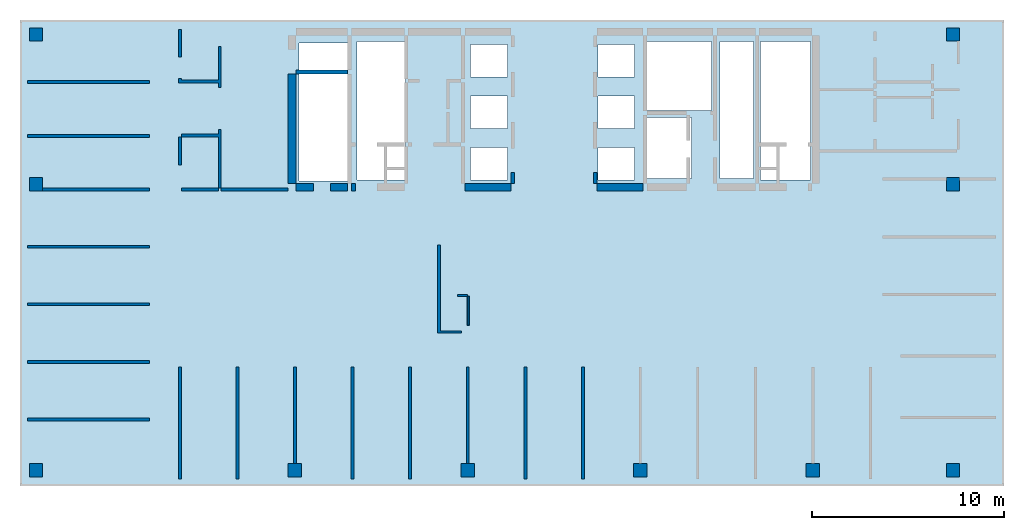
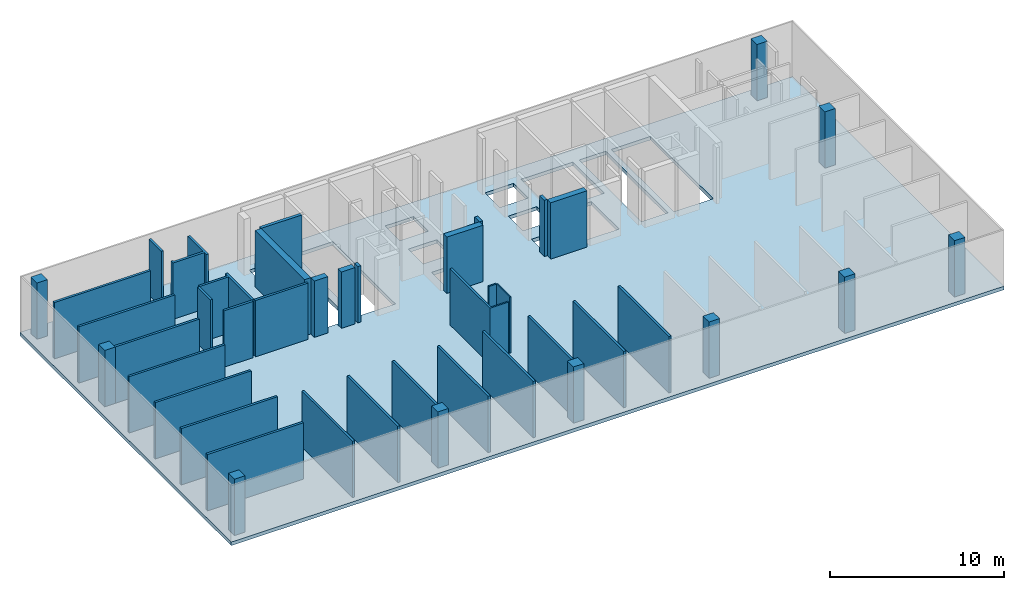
# One storey, part 1 of 4: 33 walls, 10 columns, 1 slab.
"""IFC4 building model written with IfcOpenShell, lengths in millimetres."""

from ifc_helpers import new_model, si_unit, frame, origin, place, context, project, spatial, triangles, element, save


model = new_model("IFC4")

# Units and contexts
model_context = context("Model", 3, precision=0.001, world=origin())
ifc_project = project(units=[si_unit("LENGTHUNIT", "METRE", prefix="MILLI"), si_unit("AREAUNIT", "SQUARE_METRE"), si_unit("VOLUMEUNIT", "CUBIC_METRE")], contexts=[model_context])

# Site, building, storey
site_placement = place(None, origin())
site = spatial("IfcSite", under=ifc_project, at=site_placement, Name="Site", CompositionType="ELEMENT")
building_placement = place(site_placement, origin())
building = spatial("IfcBuilding", under=site, at=building_placement, Name="INNOCEAN", CompositionType="ELEMENT")
storey_placement = place(building_placement, frame((0.0, 0.0, 72200.0)))
storey = spatial("IfcBuildingStorey", under=building, at=storey_placement, Name="F17", CompositionType="ELEMENT", Elevation=72200.0)

# Columns
column_1_placement = place(storey_placement, origin())
element("IfcColumn", 1, at=column_1_placement, inside=storey, Name="F17_Columns_F17_001", context=model_context, shape_type="Tessellation", body=[
    triangles([(40114.8, 2023.7, 0.0), (40114.8, 2023.7, 3950.0), (40114.8, 2722.3, 0.0), (40114.8, 2722.3, 3950.0), (40813.0, 2023.7, 3950.0), (40813.0, 2023.7, 0.0), (40813.0, 2722.3, 0.0), (40813.0, 2722.3, 3950.0)], [[1, 2, 3], [3, 2, 4], [5, 6, 7], [5, 7, 8], [6, 5, 1], [1, 5, 2], [8, 7, 3], [8, 3, 4], [3, 7, 1], [1, 7, 6], [8, 4, 2], [8, 2, 5]], closed=True),
])
column_2_placement = place(storey_placement, origin())
element("IfcColumn", 2, at=column_2_placement, inside=storey, Name="F17_Columns_F17_002", context=model_context, shape_type="Tessellation", body=[
    triangles([(47413.4, 24721.0, 0.0), (47413.4, 24721.0, 3950.0), (47413.4, 25419.5, 0.0), (47413.4, 25419.5, 3950.0), (48111.6, 24721.0, 3950.0), (48111.6, 24721.0, 0.0), (48111.6, 25419.5, 0.0), (48111.6, 25419.5, 3950.0)], [[1, 2, 3], [3, 2, 4], [5, 6, 7], [5, 7, 8], [6, 5, 1], [1, 5, 2], [8, 7, 3], [8, 3, 4], [1, 3, 6], [3, 7, 6], [4, 2, 5], [8, 4, 5]], closed=True),
])
column_3_placement = place(storey_placement, origin())
element("IfcColumn", 3, at=column_3_placement, inside=storey, Name="F17_Columns_F17_003", context=model_context, shape_type="Tessellation", body=[
    triangles([(47413.4, 16922.4, 0.0), (47413.4, 16922.4, 3950.0), (47413.4, 17620.9, 0.0), (47413.4, 17620.9, 3950.0), (48111.6, 16922.4, 3950.0), (48111.6, 16922.4, 0.0), (48111.6, 17620.9, 0.0), (48111.6, 17620.9, 3950.0)], [[1, 2, 3], [3, 2, 4], [5, 6, 7], [5, 7, 8], [6, 5, 1], [1, 5, 2], [8, 7, 3], [8, 3, 4], [1, 3, 6], [3, 7, 6], [4, 2, 5], [8, 4, 5]], closed=True),
])
column_4_placement = place(storey_placement, origin())
element("IfcColumn", 4, at=column_4_placement, inside=storey, Name="F17_Columns_F17_004", context=model_context, shape_type="Tessellation", body=[
    triangles([(13129.0, 2023.7, 0.0), (13129.0, 2023.7, 3950.0), (13129.0, 2722.3, 0.0), (13129.0, 2722.3, 3950.0), (13827.2, 2023.7, 3950.0), (13827.2, 2023.7, 0.0), (13827.2, 2722.3, 0.0), (13827.2, 2722.3, 3950.0)], [[1, 2, 3], [3, 2, 4], [5, 6, 7], [5, 7, 8], [6, 5, 1], [1, 5, 2], [8, 7, 3], [8, 3, 4], [3, 7, 1], [1, 7, 6], [8, 4, 2], [8, 2, 5]], closed=True),
])
column_5_placement = place(storey_placement, origin())
element("IfcColumn", 5, at=column_5_placement, inside=storey, Name="F17_Columns_F17_005", context=model_context, shape_type="Tessellation", body=[
    triangles([(47413.4, 2023.7, 0.0), (47413.4, 2023.7, 3950.0), (47413.4, 2722.3, 0.0), (47413.4, 2722.3, 3950.0), (48111.6, 2023.7, 3950.0), (48111.6, 2023.7, 0.0), (48111.6, 2722.3, 0.0), (48111.6, 2722.3, 3950.0)], [[1, 2, 3], [3, 2, 4], [5, 6, 7], [5, 7, 8], [6, 5, 1], [1, 5, 2], [8, 7, 3], [8, 3, 4], [3, 7, 1], [1, 7, 6], [8, 4, 2], [8, 2, 5]], closed=True),
])
column_6_placement = place(storey_placement, origin())
element("IfcColumn", 6, at=column_6_placement, inside=storey, Name="F17_Columns_F17_006", context=model_context, shape_type="Tessellation", body=[
    triangles([(-363.9, 2023.7, 0.0), (-363.9, 2023.7, 3950.0), (-363.9, 2722.3, 0.0), (-363.9, 2722.3, 3950.0), (334.3, 2023.7, 3950.0), (334.3, 2023.7, 0.0), (334.3, 2722.3, 0.0), (334.3, 2722.3, 3950.0)], [[1, 2, 3], [3, 2, 4], [5, 6, 7], [5, 7, 8], [6, 5, 1], [1, 5, 2], [8, 7, 3], [8, 3, 4], [3, 7, 1], [1, 7, 6], [8, 4, 2], [8, 2, 5]], closed=True),
])
column_7_placement = place(storey_placement, origin())
element("IfcColumn", 7, at=column_7_placement, inside=storey, Name="F17_Columns_F17_007", context=model_context, shape_type="Tessellation", body=[
    triangles([(-363.9, 24721.0, 0.0), (-363.9, 24721.0, 3950.0), (-363.9, 25419.5, 0.0), (-363.9, 25419.5, 3950.0), (334.3, 24721.0, 3950.0), (334.3, 24721.0, 0.0), (334.3, 25419.5, 0.0), (334.3, 25419.5, 3950.0)], [[1, 2, 3], [3, 2, 4], [5, 6, 7], [5, 7, 8], [6, 5, 1], [1, 5, 2], [8, 7, 3], [8, 3, 4], [3, 7, 1], [1, 7, 6], [8, 4, 2], [8, 2, 5]], closed=True),
])
column_8_placement = place(storey_placement, origin())
element("IfcColumn", 8, at=column_8_placement, inside=storey, Name="F17_Columns_F17_008", context=model_context, shape_type="Tessellation", body=[
    triangles([(31128.0, 2023.7, 0.0), (31128.0, 2023.7, 3950.0), (31128.0, 2722.3, 0.0), (31128.0, 2722.3, 3950.0), (31826.2, 2023.7, 3950.0), (31826.2, 2023.7, 0.0), (31826.2, 2722.3, 0.0), (31826.2, 2722.3, 3950.0)], [[1, 2, 3], [3, 2, 4], [5, 6, 7], [5, 7, 8], [6, 5, 1], [1, 5, 2], [8, 7, 3], [8, 3, 4], [3, 7, 1], [1, 7, 6], [8, 4, 2], [8, 2, 5]], closed=True),
])
column_9_placement = place(storey_placement, origin())
element("IfcColumn", 9, at=column_9_placement, inside=storey, Name="F17_Columns_F17_009", context=model_context, shape_type="Tessellation", body=[
    triangles([(22128.5, 2023.7, 0.0), (22128.5, 2023.7, 3950.0), (22128.5, 2722.3, 0.0), (22128.5, 2722.3, 3950.0), (22826.7, 2023.7, 3950.0), (22826.7, 2023.7, 0.0), (22826.7, 2722.3, 0.0), (22826.7, 2722.3, 3950.0)], [[1, 2, 3], [3, 2, 4], [5, 6, 7], [5, 7, 8], [6, 5, 1], [1, 5, 2], [8, 7, 3], [8, 3, 4], [3, 7, 1], [1, 7, 6], [8, 4, 2], [8, 2, 5]], closed=True),
])
column_10_placement = place(storey_placement, origin())
element("IfcColumn", 10, at=column_10_placement, inside=storey, Name="F17_Columns_F17_010", context=model_context, shape_type="Tessellation", body=[
    triangles([(-363.9, 16922.4, 0.0), (-363.9, 16922.4, 3950.0), (-363.9, 17620.9, 0.0), (-363.9, 17620.9, 3950.0), (334.3, 16922.4, 3950.0), (334.3, 16922.4, 0.0), (334.3, 17620.9, 0.0), (334.3, 17620.9, 3950.0)], [[1, 2, 3], [3, 2, 4], [5, 6, 7], [5, 7, 8], [6, 5, 1], [1, 5, 2], [8, 7, 3], [8, 3, 4], [3, 7, 1], [1, 7, 6], [8, 4, 2], [8, 2, 5]], closed=True),
])

# Slab
slab_placement = place(storey_placement, origin())
element("IfcSlab", 11, at=slab_placement, inside=storey, Name="F17_Slab_F17_001", context=model_context, shape_type="Tessellation", body=[
    triangles([(-846.215139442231, 25825.974025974, 0.0), (50420.3187250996, 25825.974025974, -250.0), (-846.215139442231, 25825.974025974, -250.0), (50420.3187250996, 25825.974025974, 0.0), (-846.215139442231, 1552.38095238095, 0.0), (-846.215139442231, 1552.38095238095, -250.0), (50420.3187250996, 1552.38095238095, 0.0), (50420.3187250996, 1552.38095238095, -250.0), (34130.6772908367, 20745.4545454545, -250.0), (31733.0677290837, 20745.4545454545, 0.0), (31733.0677290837, 20745.4545454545, -250.0), (34130.6772908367, 20745.4545454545, 0.0), (31733.0677290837, 17570.1298701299, 0.0), (31733.0677290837, 17570.1298701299, -250.0), (34130.6772908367, 17570.1298701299, 0.0), (34130.6772908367, 17570.1298701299, -250.0), (31168.9243027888, 19193.0735930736, 0.0), (29264.9402390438, 19193.0735930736, 0.0), (29264.9402390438, 19193.0735930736, -250.0), (31168.9243027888, 19193.0735930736, -250.0), (31168.9243027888, 17499.5670995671, 0.0), (31168.9243027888, 17499.5670995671, -250.0), (29264.9402390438, 17499.5670995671, 0.0), (29264.9402390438, 17499.5670995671, -250.0), (31168.9243027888, 21874.4588744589, 0.0), (29264.9402390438, 21874.4588744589, 0.0), (29264.9402390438, 21874.4588744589, -250.0), (31168.9243027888, 21874.4588744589, -250.0), (29264.9402390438, 20180.9523809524, 0.0), (29264.9402390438, 20180.9523809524, -250.0), (31168.9243027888, 20180.9523809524, 0.0), (31168.9243027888, 20180.9523809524, -250.0), (24540.2390438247, 19193.0735930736, -250.0), (22636.2549800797, 19193.0735930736, 0.0), (22636.2549800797, 19193.0735930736, -250.0), (24540.2390438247, 19193.0735930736, 0.0), (22636.2549800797, 17499.5670995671, 0.0), (22636.2549800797, 17499.5670995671, -250.0), (24540.2390438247, 17499.5670995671, 0.0), (24540.2390438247, 17499.5670995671, -250.0), (24540.2390438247, 21874.4588744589, -250.0), (22636.2549800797, 21874.4588744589, 0.0), (22636.2549800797, 21874.4588744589, -250.0), (24540.2390438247, 21874.4588744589, 0.0), (22636.2549800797, 20180.9523809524, 0.0), (22636.2549800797, 20180.9523809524, -250.0), (24540.2390438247, 20180.9523809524, 0.0), (24540.2390438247, 20180.9523809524, -250.0), (16219.1235059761, 24626.4069264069, 0.0), (13680.4780876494, 24626.4069264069, 0.0), (13680.4780876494, 24626.4069264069, -250.0), (16219.1235059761, 24626.4069264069, -250.0), (13680.4780876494, 17429.0043290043, 0.0), (13680.4780876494, 17429.0043290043, -250.0), (16219.1235059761, 17429.0043290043, 0.0), (16219.1235059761, 17429.0043290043, -250.0), (40336.2549800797, 24696.9696969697, -250.0), (37727.0916334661, 24696.9696969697, 0.0), (37727.0916334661, 24696.9696969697, -250.0), (40336.2549800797, 24696.9696969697, 0.0), (37727.0916334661, 17499.5670995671, 0.0), (37727.0916334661, 17499.5670995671, -250.0), (40336.2549800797, 17499.5670995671, 0.0), (40336.2549800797, 17499.5670995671, -250.0), (37374.5019920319, 24696.9696969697, 0.0), (35611.5537848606, 24696.9696969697, 0.0), (35611.5537848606, 24696.9696969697, -250.0), (37374.5019920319, 24696.9696969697, -250.0), (35611.5537848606, 17570.1298701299, 0.0), (35611.5537848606, 17570.1298701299, -250.0), (37374.5019920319, 17570.1298701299, 0.0), (37374.5019920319, 17570.1298701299, -250.0), (35188.4462151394, 24696.9696969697, 0.0), (31733.0677290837, 24696.9696969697, 0.0), (31733.0677290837, 24696.9696969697, -250.0), (35188.4462151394, 24696.9696969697, -250.0), (31733.0677290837, 21098.2683982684, 0.0), (31733.0677290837, 21098.2683982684, -250.0), (35188.4462151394, 21098.2683982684, 0.0), (35188.4462151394, 21098.2683982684, -250.0), (31168.9243027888, 24555.8441558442, 0.0), (29264.9402390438, 24555.8441558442, 0.0), (29264.9402390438, 24555.8441558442, -250.0), (31168.9243027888, 24555.8441558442, -250.0), (29264.9402390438, 22862.3376623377, 0.0), (29264.9402390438, 22862.3376623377, -250.0), (31168.9243027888, 22862.3376623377, 0.0), (31168.9243027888, 22862.3376623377, -250.0), (19251.3944223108, 24696.9696969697, 0.0), (16712.7490039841, 24696.9696969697, 0.0), (16712.7490039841, 24696.9696969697, -250.0), (19251.3944223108, 24696.9696969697, -250.0), (16712.7490039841, 17499.5670995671, 0.0), (16712.7490039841, 17499.5670995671, -250.0), (19251.3944223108, 17499.5670995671, 0.0), (19251.3944223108, 17499.5670995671, -250.0), (24540.2390438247, 24555.8441558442, -250.0), (22636.2549800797, 24555.8441558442, 0.0), (22636.2549800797, 24555.8441558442, -250.0), (24540.2390438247, 24555.8441558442, 0.0), (22636.2549800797, 22862.3376623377, 0.0), (22636.2549800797, 22862.3376623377, -250.0), (24540.2390438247, 22862.3376623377, 0.0), (24540.2390438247, 22862.3376623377, -250.0)], [[1, 2, 3], [1, 4, 2], [5, 1, 6], [6, 1, 3], [4, 7, 2], [2, 7, 8], [7, 6, 8], [7, 5, 6], [9, 10, 11], [12, 10, 9], [10, 13, 14], [10, 14, 11], [15, 12, 9], [15, 9, 16], [14, 15, 16], [13, 15, 14], [17, 18, 19], [17, 19, 20], [21, 17, 20], [21, 20, 22], [23, 21, 22], [23, 22, 24], [18, 23, 24], [18, 24, 19], [25, 26, 27], [25, 27, 28], [26, 29, 30], [26, 30, 27], [31, 25, 28], [31, 28, 32], [29, 31, 32], [29, 32, 30], [33, 34, 35], [36, 34, 33], [34, 37, 38], [34, 38, 35], [39, 36, 33], [39, 33, 40], [38, 39, 40], [37, 39, 38], [41, 42, 43], [44, 42, 41], [42, 45, 46], [42, 46, 43], [47, 44, 41], [47, 41, 48], [46, 47, 48], [45, 47, 46], [49, 50, 51], [49, 51, 52], [50, 53, 54], [50, 54, 51], [55, 49, 52], [55, 52, 56], [53, 55, 56], [53, 56, 54], [57, 58, 59], [60, 58, 57], [58, 61, 62], [58, 62, 59], [63, 60, 57], [63, 57, 64], [62, 63, 64], [61, 63, 62], [65, 66, 67], [65, 67, 68], [66, 69, 70], [66, 70, 67], [71, 65, 68], [71, 68, 72], [69, 71, 72], [69, 72, 70], [73, 74, 75], [73, 75, 76], [74, 77, 78], [74, 78, 75], [79, 73, 76], [79, 76, 80], [77, 79, 80], [77, 80, 78], [81, 82, 83], [81, 83, 84], [82, 85, 86], [82, 86, 83], [87, 81, 84], [87, 84, 88], [85, 87, 88], [85, 88, 86], [89, 90, 91], [89, 91, 92], [90, 93, 94], [90, 94, 91], [95, 89, 92], [95, 92, 96], [93, 95, 96], [93, 96, 94], [97, 98, 99], [100, 98, 97], [98, 101, 102], [98, 102, 99], [103, 100, 97], [103, 97, 104], [102, 103, 104], [101, 103, 102], [4, 63, 7], [63, 61, 7], [61, 69, 7], [71, 69, 61], [69, 15, 7], [4, 60, 63], [13, 21, 15], [15, 21, 7], [79, 12, 69], [69, 12, 15], [13, 17, 21], [21, 23, 7], [17, 10, 31], [12, 77, 10], [10, 77, 31], [66, 73, 79], [31, 18, 17], [77, 25, 31], [31, 29, 18], [77, 87, 25], [23, 39, 7], [74, 81, 87], [25, 85, 26], [87, 85, 25], [29, 36, 18], [18, 36, 23], [23, 36, 39], [74, 82, 81], [26, 47, 29], [29, 47, 36], [26, 44, 47], [36, 45, 34], [47, 45, 36], [34, 95, 37], [45, 95, 34], [85, 103, 26], [26, 103, 44], [103, 42, 44], [45, 42, 95], [85, 100, 103], [82, 100, 85], [103, 101, 42], [93, 55, 95], [39, 5, 7], [37, 5, 39], [95, 5, 37], [55, 5, 95], [55, 53, 5], [42, 89, 95], [101, 89, 42], [98, 89, 101], [90, 49, 93], [93, 49, 55], [90, 50, 49], [50, 1, 53], [53, 1, 5], [4, 1, 60], [60, 1, 58], [58, 1, 65], [65, 1, 66], [66, 1, 73], [73, 1, 74], [74, 1, 82], [82, 1, 100], [100, 1, 98], [98, 1, 89], [89, 1, 90], [90, 1, 50], [13, 10, 17], [69, 66, 79], [65, 71, 58], [58, 71, 61], [77, 74, 87], [79, 77, 12], [64, 2, 8], [62, 64, 8], [70, 62, 8], [70, 72, 62], [16, 70, 8], [57, 2, 64], [22, 14, 16], [22, 16, 8], [9, 80, 70], [9, 70, 16], [20, 14, 22], [24, 22, 8], [11, 20, 32], [78, 9, 11], [78, 11, 32], [76, 67, 80], [19, 32, 20], [28, 78, 32], [30, 32, 19], [88, 78, 28], [40, 24, 8], [84, 75, 88], [86, 28, 27], [86, 88, 28], [33, 30, 19], [33, 19, 24], [33, 24, 40], [83, 75, 84], [48, 27, 30], [48, 30, 33], [41, 27, 48], [46, 33, 35], [46, 48, 33], [96, 35, 38], [96, 46, 35], [104, 86, 27], [104, 27, 41], [43, 104, 41], [43, 46, 96], [97, 86, 104], [97, 83, 86], [102, 104, 43], [56, 94, 96], [6, 40, 8], [6, 38, 40], [6, 96, 38], [6, 56, 96], [54, 56, 6], [92, 43, 96], [92, 102, 43], [92, 99, 102], [52, 91, 94], [52, 94, 56], [51, 91, 52], [3, 51, 54], [3, 54, 6], [3, 2, 57], [3, 57, 59], [3, 59, 68], [3, 68, 67], [3, 67, 76], [3, 76, 75], [3, 75, 83], [3, 83, 97], [3, 97, 99], [3, 99, 92], [3, 92, 91], [3, 91, 51], [11, 14, 20], [67, 70, 80], [72, 68, 59], [72, 59, 62], [75, 78, 88], [78, 80, 9]], closed=True),
])

# Walls
wall_1_placement = place(storey_placement, origin())
element("IfcWall", 12, at=wall_1_placement, inside=storey, Name="F17_Walls_F17_001", context=model_context, shape_type="Tessellation", body=[
    triangles([(10565.0, 1922.1, 0.0), (10565.0, 7752.0, 0.0), (10565.0, 7752.0, 3950.0), (10565.0, 1922.1, 3950.0), (10412.7, 1922.1, 0.0), (10412.7, 1922.1, 3950.0), (10412.7, 7752.0, 0.0), (10412.7, 7752.0, 3950.0)], [[1, 2, 3], [1, 3, 4], [5, 1, 4], [5, 4, 6], [7, 5, 6], [7, 6, 8], [2, 7, 8], [2, 8, 3], [2, 1, 5], [7, 2, 5], [4, 3, 6], [3, 8, 6]], closed=True),
])
wall_2_placement = place(storey_placement, origin())
element("IfcWall", 13, at=wall_2_placement, inside=storey, Name="F17_Walls_F17_002", context=model_context, shape_type="Tessellation", body=[
    triangles([(7556.7, 1922.1, 0.0), (7556.7, 7752.0, 0.0), (7556.7, 7752.0, 3950.0), (7556.7, 1922.1, 3950.0), (7417.1, 1922.1, 0.0), (7417.1, 1922.1, 3950.0), (7417.1, 7752.0, 0.0), (7417.1, 7752.0, 3950.0)], [[1, 2, 3], [1, 3, 4], [5, 1, 4], [5, 4, 6], [7, 5, 6], [7, 6, 8], [2, 7, 8], [2, 8, 3], [7, 2, 1], [7, 1, 5], [3, 8, 4], [4, 8, 6]], closed=True),
])
wall_3_placement = place(storey_placement, origin())
element("IfcWall", 14, at=wall_3_placement, inside=storey, Name="F17_Walls_F17_003", context=model_context, shape_type="Tessellation", body=[
    triangles([(16556.2, 1922.1, 0.0), (16556.2, 7752.0, 0.0), (16556.2, 7752.0, 3950.0), (16556.2, 1922.1, 3950.0), (16403.9, 1922.1, 0.0), (16403.9, 1922.1, 3950.0), (16403.9, 7752.0, 0.0), (16403.9, 7752.0, 3950.0)], [[1, 2, 3], [1, 3, 4], [5, 1, 4], [5, 4, 6], [7, 5, 6], [7, 6, 8], [2, 7, 8], [2, 8, 3], [2, 1, 5], [7, 2, 5], [4, 3, 6], [3, 8, 6]], closed=True),
])
wall_4_placement = place(storey_placement, origin())
element("IfcWall", 15, at=wall_4_placement, inside=storey, Name="F17_Walls_F17_004", context=model_context, shape_type="Tessellation", body=[
    triangles([(5906.6, 4945.0, 0.0), (5906.6, 5097.5, 0.0), (5906.6, 5097.5, 3950.0), (5906.6, 4945.0, 3950.0), (-465.4, 4945.0, 0.0), (-465.4, 4945.0, 3950.0), (-465.4, 5097.5, 0.0), (-465.4, 5097.5, 3950.0)], [[1, 2, 3], [1, 3, 4], [5, 1, 4], [5, 4, 6], [7, 5, 6], [7, 6, 8], [2, 7, 8], [2, 8, 3], [5, 2, 1], [7, 2, 5], [3, 6, 4], [3, 8, 6]], closed=True),
])
wall_5_placement = place(storey_placement, origin())
element("IfcWall", 16, at=wall_5_placement, inside=storey, Name="F17_Walls_F17_005", context=model_context, shape_type="Tessellation", body=[
    triangles([(13560.6, 2722.3, 0.0), (13560.6, 7752.0, 0.0), (13560.6, 7752.0, 3950.0), (13560.6, 2722.3, 3950.0), (13408.3, 2722.3, 0.0), (13408.3, 2722.3, 3950.0), (13408.3, 7752.0, 0.0), (13408.3, 7752.0, 3950.0)], [[1, 2, 3], [1, 3, 4], [5, 1, 4], [5, 4, 6], [7, 5, 6], [7, 6, 8], [2, 7, 8], [2, 8, 3], [7, 2, 1], [7, 1, 5], [3, 8, 4], [4, 8, 6]], closed=True),
])
wall_6_placement = place(storey_placement, origin())
element("IfcWall", 17, at=wall_6_placement, inside=storey, Name="F17_Walls_F17_006", context=model_context, shape_type="Tessellation", body=[
    triangles([(5906.6, 7942.5, 0.0), (5906.6, 8095.0, 0.0), (5906.6, 8095.0, 3950.0), (5906.6, 7942.5, 3950.0), (-465.4, 7942.5, 0.0), (-465.4, 7942.5, 3950.0), (-465.4, 8095.0, 0.0), (-465.4, 8095.0, 3950.0)], [[1, 2, 3], [1, 3, 4], [5, 1, 4], [5, 4, 6], [7, 5, 6], [7, 6, 8], [2, 7, 8], [2, 8, 3], [5, 2, 1], [7, 2, 5], [3, 6, 4], [3, 8, 6]], closed=True),
])
wall_7_placement = place(storey_placement, origin())
element("IfcWall", 18, at=wall_7_placement, inside=storey, Name="F17_Walls_F17_007", context=model_context, shape_type="Tessellation", body=[
    triangles([(5906.6, 10940.1, 0.0), (5906.6, 11092.5, 0.0), (5906.6, 11092.5, 3950.0), (5906.6, 10940.1, 3950.0), (-465.4, 10940.1, 0.0), (-465.4, 10940.1, 3950.0), (-465.4, 11092.5, 0.0), (-465.4, 11092.5, 3950.0)], [[1, 2, 3], [1, 3, 4], [5, 1, 4], [5, 4, 6], [7, 5, 6], [7, 6, 8], [2, 7, 8], [2, 8, 3], [5, 2, 1], [7, 2, 5], [3, 6, 4], [3, 8, 6]], closed=True),
])
wall_8_placement = place(storey_placement, origin())
element("IfcWall", 19, at=wall_8_placement, inside=storey, Name="F17_Walls_F17_008", context=model_context, shape_type="Tessellation", body=[
    triangles([(5906.6, 14090.0, 0.0), (5906.6, 14090.0, 3950.0), (5906.6, 13950.3, 3950.0), (5906.6, 13950.3, 0.0), (-465.4, 13950.3, 0.0), (-465.4, 13950.3, 3950.0), (-465.4, 14090.0, 3950.0), (-465.4, 14090.0, 0.0)], [[1, 2, 3], [4, 1, 3], [5, 4, 3], [5, 3, 6], [5, 6, 7], [8, 5, 7], [1, 8, 7], [1, 7, 2], [5, 1, 4], [8, 1, 5], [2, 6, 3], [2, 7, 6]], closed=True),
])
wall_9_placement = place(storey_placement, origin())
element("IfcWall", 20, at=wall_9_placement, inside=storey, Name="F17_Walls_F17_009", context=model_context, shape_type="Tessellation", body=[
    triangles([(5906.6, 16922.4, 0.0), (5906.6, 17074.8, 0.0), (5906.6, 17074.8, 3950.0), (5906.6, 16922.4, 3950.0), (334.3, 16922.4, 0.0), (334.3, 16922.4, 3950.0), (334.3, 17074.8, 0.0), (334.3, 17074.8, 3950.0)], [[1, 2, 3], [1, 3, 4], [5, 1, 4], [5, 4, 6], [7, 5, 6], [7, 6, 8], [2, 7, 8], [2, 8, 3], [7, 2, 1], [7, 1, 5], [3, 8, 4], [4, 8, 6]], closed=True),
])
wall_10_placement = place(storey_placement, origin())
element("IfcWall", 21, at=wall_10_placement, inside=storey, Name="F17_Walls_F17_010", context=model_context, shape_type="Tessellation", body=[
    triangles([(9486.1, 16922.4, 0.0), (9486.1, 17074.8, 0.0), (9486.1, 17074.8, 3950.0), (9486.1, 16922.4, 3950.0), (7556.7, 16922.4, 0.0), (7556.7, 16922.4, 3950.0), (7556.7, 17074.8, 0.0), (7556.7, 17074.8, 3950.0)], [[1, 2, 3], [1, 3, 4], [5, 1, 4], [5, 4, 6], [7, 5, 6], [7, 6, 8], [2, 7, 8], [2, 8, 3], [7, 2, 1], [7, 1, 5], [3, 8, 4], [4, 8, 6]], closed=True),
])
wall_11_placement = place(storey_placement, origin())
element("IfcWall", 22, at=wall_11_placement, inside=storey, Name="F17_Walls_F17_011", context=model_context, shape_type="Tessellation", body=[
    triangles([(13129.0, 16922.4, 0.0), (13129.0, 17074.8, 0.0), (13129.0, 17074.8, 3950.0), (13129.0, 16922.4, 3950.0), (9638.4, 16922.4, 3950.0), (9638.4, 16922.4, 0.0), (9638.4, 17074.8, 0.0), (9638.4, 17074.8, 3950.0)], [[1, 2, 3], [1, 3, 4], [1, 4, 5], [6, 1, 5], [7, 6, 5], [7, 5, 8], [7, 8, 3], [2, 7, 3], [7, 2, 1], [7, 1, 6], [3, 8, 4], [4, 8, 5]], closed=True),
])
wall_12_placement = place(storey_placement, origin())
element("IfcWall", 23, at=wall_12_placement, inside=storey, Name="F17_Walls_F17_012", context=model_context, shape_type="Tessellation", body=[
    triangles([(14436.4, 17316.1, 0.0), (14436.4, 17316.1, 3950.0), (14436.4, 16922.4, 3950.0), (14436.4, 16922.4, 0.0), (13535.2, 16922.4, 0.0), (13535.2, 16922.4, 3950.0), (13535.2, 17316.1, 3950.0), (13535.2, 17316.1, 0.0)], [[1, 2, 3], [4, 1, 3], [5, 4, 3], [5, 3, 6], [5, 6, 7], [8, 5, 7], [1, 8, 7], [1, 7, 2], [8, 1, 4], [8, 4, 5], [2, 7, 3], [3, 7, 6]], closed=True),
])
wall_13_placement = place(storey_placement, origin())
element("IfcWall", 24, at=wall_13_placement, inside=storey, Name="F17_Walls_F17_013", context=model_context, shape_type="Tessellation", body=[
    triangles([(16226.2, 17316.1, 0.0), (16226.2, 17316.1, 3950.0), (16226.2, 16922.4, 3950.0), (16226.2, 16922.4, 0.0), (15337.6, 16922.4, 0.0), (15337.6, 16922.4, 3950.0), (15337.6, 17316.1, 3950.0), (15337.6, 17316.1, 0.0)], [[1, 2, 3], [4, 1, 3], [5, 4, 3], [5, 3, 6], [5, 6, 7], [8, 5, 7], [1, 8, 7], [1, 7, 2], [8, 1, 4], [8, 4, 5], [2, 7, 3], [3, 7, 6]], closed=True),
])
wall_14_placement = place(storey_placement, origin())
element("IfcWall", 25, at=wall_14_placement, inside=storey, Name="F17_Walls_F17_014", context=model_context, shape_type="Tessellation", body=[
    triangles([(16632.4, 17316.1, 0.0), (16632.4, 17316.1, 3950.0), (16632.4, 16922.4, 3950.0), (16632.4, 16922.4, 0.0), (16429.3, 16922.4, 3950.0), (16429.3, 16922.4, 0.0), (16429.3, 17316.1, 3950.0), (16429.3, 17316.1, 0.0)], [[1, 2, 3], [4, 1, 3], [4, 3, 5], [6, 4, 5], [6, 5, 7], [8, 6, 7], [8, 7, 2], [1, 8, 2], [8, 1, 4], [8, 4, 6], [2, 7, 3], [3, 7, 5]], closed=True),
])
wall_15_placement = place(storey_placement, origin())
element("IfcWall", 26, at=wall_15_placement, inside=storey, Name="F17_Walls_F17_017", context=model_context, shape_type="Tessellation", body=[
    triangles([(9486.1, 19894.5, 0.0), (7556.7, 19894.5, 0.0), (7556.7, 19894.5, 3950.0), (9486.1, 19894.5, 3950.0), (9486.1, 20123.1, 3950.0), (9486.1, 20123.1, 0.0), (9638.4, 20123.1, 0.0), (9638.4, 20123.1, 3950.0), (9638.4, 17074.8, 0.0), (9638.4, 17074.8, 3950.0), (9486.1, 17074.8, 0.0), (9486.1, 17074.8, 3950.0), (9486.1, 19742.1, 0.0), (9486.1, 19742.1, 3950.0), (7556.7, 19742.1, 0.0), (7556.7, 19742.1, 3950.0)], [[1, 2, 3], [1, 3, 4], [1, 4, 5], [6, 1, 5], [7, 6, 5], [7, 5, 8], [9, 7, 8], [9, 8, 10], [11, 9, 10], [11, 10, 12], [13, 11, 12], [13, 12, 14], [15, 13, 14], [15, 14, 16], [2, 15, 16], [2, 16, 3], [13, 9, 11], [7, 9, 13], [7, 13, 1], [6, 7, 1], [2, 13, 15], [2, 1, 13], [10, 14, 12], [10, 8, 14], [14, 8, 4], [8, 5, 4], [14, 3, 16], [4, 3, 14]], closed=True),
])
wall_16_placement = place(storey_placement, origin())
element("IfcWall", 27, at=wall_16_placement, inside=storey, Name="F17_Walls_F17_018", context=model_context, shape_type="Tessellation", body=[
    triangles([(7556.7, 19742.1, 0.0), (7556.7, 19742.1, 3950.0), (7556.7, 18268.7, 3950.0), (7556.7, 18268.7, 0.0), (7417.1, 18268.7, 0.0), (7417.1, 18268.7, 3950.0), (7417.1, 19742.1, 3950.0), (7417.1, 19742.1, 0.0)], [[1, 2, 3], [4, 1, 3], [5, 4, 3], [5, 3, 6], [5, 6, 7], [8, 5, 7], [1, 8, 7], [1, 7, 2], [8, 1, 4], [8, 4, 5], [2, 7, 3], [3, 7, 6]], closed=True),
])
wall_17_placement = place(storey_placement, origin())
element("IfcWall", 28, at=wall_17_placement, inside=storey, Name="F17_Walls_F17_019", context=model_context, shape_type="Tessellation", body=[
    triangles([(5906.6, 19716.6, 0.0), (5906.6, 19869.1, 0.0), (5906.6, 19869.1, 3950.0), (5906.6, 19716.6, 3950.0), (-465.4, 19716.6, 0.0), (-465.4, 19716.6, 3950.0), (-465.4, 19869.1, 0.0), (-465.4, 19869.1, 3950.0)], [[1, 2, 3], [1, 3, 4], [5, 1, 4], [5, 4, 6], [7, 5, 6], [7, 6, 8], [2, 7, 8], [2, 8, 3], [5, 2, 1], [7, 2, 5], [3, 6, 4], [3, 8, 6]], closed=True),
])
wall_18_placement = place(storey_placement, origin())
element("IfcWall", 29, at=wall_18_placement, inside=storey, Name="F17_Walls_F17_020", context=model_context, shape_type="Tessellation", body=[
    triangles([(13535.2, 17316.1, 0.0), (13535.2, 23019.0, 0.0), (13535.2, 23019.0, 3950.0), (13535.2, 17316.1, 3950.0), (13129.0, 17316.1, 3950.0), (13129.0, 17316.1, 0.0), (13129.0, 23019.0, 0.0), (13129.0, 23019.0, 3950.0)], [[1, 2, 3], [1, 3, 4], [1, 4, 5], [6, 1, 5], [7, 6, 5], [7, 5, 8], [7, 8, 3], [2, 7, 3], [7, 2, 1], [7, 1, 6], [3, 8, 4], [4, 8, 5]], closed=True),
])
wall_19_placement = place(storey_placement, origin())
element("IfcWall", 30, at=wall_19_placement, inside=storey, Name="F17_Walls_F17_021", context=model_context, shape_type="Tessellation", body=[
    triangles([(5906.6, 22523.6, 0.0), (5906.6, 22676.1, 0.0), (5906.6, 22676.1, 3950.0), (5906.6, 22523.6, 3950.0), (-465.4, 22523.6, 0.0), (-465.4, 22523.6, 3950.0), (-465.4, 22676.1, 0.0), (-465.4, 22676.1, 3950.0)], [[1, 2, 3], [1, 3, 4], [5, 1, 4], [5, 4, 6], [7, 5, 6], [7, 6, 8], [2, 7, 8], [2, 8, 3], [5, 2, 1], [7, 2, 5], [3, 6, 4], [3, 8, 6]], closed=True),
])
wall_20_placement = place(storey_placement, origin())
element("IfcWall", 31, at=wall_20_placement, inside=storey, Name="F17_Walls_F17_022", context=model_context, shape_type="Tessellation", body=[
    triangles([(7556.7, 22549.0, 0.0), (9486.1, 22549.0, 0.0), (9486.1, 22549.0, 3950.0), (7556.7, 22549.0, 3950.0), (7556.7, 22550.0, 0.0), (7556.7, 22550.0, 3950.0), (7415.0, 22550.0, 0.0), (7415.0, 22550.0, 3950.0), (7415.0, 22790.0, 0.0), (7415.0, 22790.0, 3950.0), (7555.0, 22790.0, 0.0), (7555.0, 22790.0, 3950.0), (7555.0, 22700.0, 3950.0), (7555.0, 22700.0, 0.0), (7556.7, 22700.0, 0.0), (7556.7, 22700.0, 3950.0), (7556.7, 22701.5, 0.0), (7556.7, 22701.5, 3950.0), (9486.1, 22701.5, 0.0), (9486.1, 22701.5, 3950.0), (9486.1, 24454.2, 0.0), (9486.1, 24454.2, 3950.0), (9638.4, 24454.2, 0.0), (9638.4, 24454.2, 3950.0), (9638.4, 22320.4, 0.0), (9638.4, 22320.4, 3950.0), (9486.1, 22320.4, 0.0), (9486.1, 22320.4, 3950.0)], [[1, 2, 3], [1, 3, 4], [5, 1, 4], [5, 4, 6], [7, 5, 6], [7, 6, 8], [9, 7, 8], [9, 8, 10], [11, 9, 10], [11, 10, 12], [11, 12, 13], [14, 11, 13], [15, 14, 13], [15, 13, 16], [17, 15, 16], [17, 16, 18], [19, 17, 18], [19, 18, 20], [21, 19, 20], [21, 20, 22], [23, 21, 22], [23, 22, 24], [25, 23, 24], [25, 24, 26], [27, 25, 26], [27, 26, 28], [27, 28, 3], [2, 27, 3], [2, 25, 27], [19, 25, 2], [23, 25, 19], [21, 23, 19], [5, 2, 1], [15, 19, 2], [15, 2, 5], [17, 19, 15], [14, 5, 7], [14, 15, 5], [9, 11, 14], [9, 14, 7], [26, 3, 28], [26, 20, 3], [26, 24, 20], [24, 22, 20], [3, 6, 4], [20, 16, 3], [3, 16, 6], [20, 18, 16], [6, 13, 8], [16, 13, 6], [12, 10, 13], [13, 10, 8]], closed=True),
])
wall_21_placement = place(storey_placement, origin())
element("IfcWall", 32, at=wall_21_placement, inside=storey, Name="F17_Walls_F17_023", context=model_context, shape_type="Tessellation", body=[
    triangles([(16226.2, 23019.0, 0.0), (16226.2, 23222.2, 0.0), (16226.2, 23222.2, 3950.0), (16226.2, 23019.0, 3950.0), (13535.2, 23019.0, 0.0), (13535.2, 23019.0, 3950.0), (13535.2, 23222.2, 0.0), (13535.2, 23222.2, 3950.0)], [[1, 2, 3], [1, 3, 4], [5, 1, 4], [5, 4, 6], [7, 5, 6], [7, 6, 8], [2, 7, 8], [2, 8, 3], [7, 2, 1], [7, 1, 5], [3, 8, 4], [4, 8, 6]], closed=True),
])
wall_22_placement = place(storey_placement, origin())
element("IfcWall", 33, at=wall_22_placement, inside=storey, Name="F17_Walls_F17_025", context=model_context, shape_type="Tessellation", body=[
    triangles([(7555.0, 25320.0, 0.0), (7415.0, 25320.0, 0.0), (7415.0, 25320.0, 3950.0), (7555.0, 25320.0, 3950.0), (7555.0, 25317.9, 0.0), (7555.0, 25317.9, 3950.0), (7556.7, 25317.9, 0.0), (7556.7, 25317.9, 3950.0), (7556.7, 23895.4, 0.0), (7556.7, 23895.4, 3950.0), (7555.0, 23895.4, 0.0), (7555.0, 23895.4, 3950.0), (7555.0, 23895.0, 0.0), (7555.0, 23895.0, 3950.0), (7415.0, 23895.0, 0.0), (7415.0, 23895.0, 3950.0)], [[1, 2, 3], [1, 3, 4], [5, 1, 4], [5, 4, 6], [7, 5, 6], [7, 6, 8], [9, 7, 8], [9, 8, 10], [11, 9, 10], [11, 10, 12], [13, 11, 12], [13, 12, 14], [15, 13, 14], [15, 14, 16], [2, 15, 16], [2, 16, 3], [15, 11, 13], [5, 7, 9], [5, 9, 11], [5, 11, 15], [2, 1, 5], [2, 5, 15], [12, 16, 14], [8, 6, 10], [10, 6, 12], [12, 6, 16], [4, 3, 6], [6, 3, 16]], closed=True),
])
wall_23_placement = place(storey_placement, origin())
element("IfcWall", 34, at=wall_23_placement, inside=storey, Name="F17_Walls_F17_029", context=model_context, shape_type="Tessellation", body=[
    triangles([(25555.7, 1922.1, 0.0), (25555.7, 7752.0, 0.0), (25555.7, 7752.0, 3950.0), (25555.7, 1922.1, 3950.0), (25403.4, 1922.1, 0.0), (25403.4, 1922.1, 3950.0), (25403.4, 7752.0, 0.0), (25403.4, 7752.0, 3950.0)], [[1, 2, 3], [1, 3, 4], [5, 1, 4], [5, 4, 6], [7, 5, 6], [7, 6, 8], [2, 7, 8], [2, 8, 3], [2, 1, 5], [7, 2, 5], [4, 3, 6], [3, 8, 6]], closed=True),
])
wall_24_placement = place(storey_placement, origin())
element("IfcWall", 35, at=wall_24_placement, inside=storey, Name="F17_Walls_F17_030", context=model_context, shape_type="Tessellation", body=[
    triangles([(19551.8, 1922.1, 0.0), (19551.8, 7752.0, 0.0), (19551.8, 7752.0, 3950.0), (19551.8, 1922.1, 3950.0), (19399.5, 1922.1, 0.0), (19399.5, 1922.1, 3950.0), (19399.5, 7752.0, 0.0), (19399.5, 7752.0, 3950.0)], [[1, 2, 3], [1, 3, 4], [5, 1, 4], [5, 4, 6], [7, 5, 6], [7, 6, 8], [2, 7, 8], [2, 8, 3], [2, 1, 5], [7, 2, 5], [4, 3, 6], [3, 8, 6]], closed=True),
])
wall_25_placement = place(storey_placement, origin())
element("IfcWall", 36, at=wall_25_placement, inside=storey, Name="F17_Walls_F17_031", context=model_context, shape_type="Tessellation", body=[
    triangles([(22547.4, 2722.3, 0.0), (22547.4, 7752.0, 0.0), (22547.4, 7752.0, 3950.0), (22547.4, 2722.3, 3950.0), (22407.8, 2722.3, 0.0), (22407.8, 2722.3, 3950.0), (22407.8, 7752.0, 0.0), (22407.8, 7752.0, 3950.0)], [[1, 2, 3], [1, 3, 4], [5, 1, 4], [5, 4, 6], [7, 5, 6], [7, 6, 8], [2, 7, 8], [2, 8, 3], [7, 2, 1], [7, 1, 5], [3, 8, 4], [4, 8, 6]], closed=True),
])
wall_26_placement = place(storey_placement, origin())
element("IfcWall", 37, at=wall_26_placement, inside=storey, Name="F17_Walls_F17_032", context=model_context, shape_type="Tessellation", body=[
    triangles([(20910.0, 14115.4, 0.0), (20910.0, 14115.0, 0.0), (20910.0, 14115.0, 3950.0), (20910.0, 14115.4, 3950.0), (21049.6, 14115.4, 0.0), (21049.6, 14115.4, 3950.0), (21049.6, 14115.0, 0.0), (21049.6, 14115.0, 3950.0), (21050.0, 14115.0, 0.0), (21050.0, 14115.0, 3950.0), (21050.0, 9620.0, 0.0), (21050.0, 9620.0, 3950.0), (21050.0, 9619.1, 0.0), (21050.0, 9619.1, 3950.0), (22153.9, 9619.1, 0.0), (22153.9, 9619.1, 3950.0), (22153.9, 9517.5, 0.0), (22153.9, 9517.5, 3950.0), (21049.6, 9517.5, 0.0), (21049.6, 9517.5, 3950.0), (20910.0, 9517.5, 0.0), (20910.0, 9517.5, 3950.0), (20910.0, 9520.0, 0.0), (20910.0, 9520.0, 3950.0)], [[1, 2, 3], [1, 3, 4], [5, 1, 4], [5, 4, 6], [7, 5, 6], [7, 6, 8], [9, 7, 8], [9, 8, 10], [11, 9, 10], [11, 10, 12], [13, 11, 12], [13, 12, 14], [15, 13, 14], [15, 14, 16], [17, 15, 16], [17, 16, 18], [19, 17, 18], [19, 18, 20], [21, 19, 20], [21, 20, 22], [23, 21, 22], [23, 22, 24], [2, 23, 24], [2, 24, 3], [13, 15, 17], [13, 17, 19], [23, 11, 13], [23, 19, 21], [23, 13, 19], [7, 9, 11], [2, 7, 11], [2, 11, 23], [1, 5, 7], [1, 7, 2], [16, 14, 18], [18, 14, 20], [12, 24, 14], [20, 24, 22], [14, 24, 20], [10, 8, 12], [8, 3, 12], [12, 3, 24], [6, 4, 8], [8, 4, 3]], closed=True),
])
wall_27_placement = place(storey_placement, origin())
element("IfcWall", 38, at=wall_27_placement, inside=storey, Name="F17_Walls_F17_033", context=model_context, shape_type="Tessellation", body=[
    triangles([(22547.4, 9923.9, 0.0), (22547.4, 11422.7, 0.0), (22547.4, 11422.7, 3950.0), (22547.4, 9923.9, 3950.0), (22458.6, 9923.9, 0.0), (22458.6, 9923.9, 3950.0), (22458.6, 11422.7, 0.0), (22458.6, 11422.7, 3950.0)], [[1, 2, 3], [1, 3, 4], [5, 1, 4], [5, 4, 6], [7, 5, 6], [7, 6, 8], [2, 7, 8], [2, 8, 3], [7, 2, 1], [7, 1, 5], [3, 8, 4], [4, 8, 6]], closed=True),
])
wall_28_placement = place(storey_placement, origin())
element("IfcWall", 39, at=wall_28_placement, inside=storey, Name="F17_Walls_F17_034", context=model_context, shape_type="Tessellation", body=[
    triangles([(22458.6, 11422.7, 0.0), (22458.6, 11524.3, 0.0), (22458.6, 11524.3, 3950.0), (22458.6, 11422.7, 3950.0), (21950.8, 11422.7, 0.0), (21950.8, 11422.7, 3950.0), (21950.8, 11524.3, 0.0), (21950.8, 11524.3, 3950.0)], [[1, 2, 3], [1, 3, 4], [5, 1, 4], [5, 4, 6], [7, 5, 6], [7, 6, 8], [2, 7, 8], [2, 8, 3], [7, 2, 1], [7, 1, 5], [3, 8, 4], [4, 8, 6]], closed=True),
])
wall_29_placement = place(storey_placement, origin())
element("IfcWall", 40, at=wall_29_placement, inside=storey, Name="F17_Walls_F17_035", context=model_context, shape_type="Tessellation", body=[
    triangles([(24730.6, 17316.1, 0.0), (22331.6, 17316.1, 0.0), (22331.6, 17316.1, 3950.0), (24730.6, 17316.1, 3950.0), (24730.6, 16922.4, 3950.0), (24730.6, 16922.4, 0.0), (22331.6, 16922.4, 0.0), (22331.6, 16922.4, 3950.0)], [[1, 2, 3], [1, 3, 4], [1, 4, 5], [6, 1, 5], [7, 6, 5], [7, 5, 8], [7, 8, 3], [2, 7, 3], [2, 1, 6], [2, 6, 7], [4, 3, 5], [5, 3, 8]], closed=True),
])
wall_30_placement = place(storey_placement, origin())
element("IfcWall", 41, at=wall_30_placement, inside=storey, Name="F17_Walls_F17_036", context=model_context, shape_type="Tessellation", body=[
    triangles([(24730.6, 17316.1, 0.0), (24921.0, 17316.1, 0.0), (24921.0, 17316.1, 3950.0), (24730.6, 17316.1, 3950.0), (24730.6, 17875.0, 3950.0), (24730.6, 17875.0, 0.0), (24921.0, 17875.0, 0.0), (24921.0, 17875.0, 3950.0)], [[1, 2, 3], [1, 3, 4], [1, 4, 5], [6, 1, 5], [7, 6, 5], [7, 5, 8], [7, 8, 3], [2, 7, 3], [6, 2, 1], [6, 7, 2], [3, 5, 4], [8, 5, 3]], closed=True),
])
wall_31_placement = place(storey_placement, origin())
element("IfcWall", 42, at=wall_31_placement, inside=storey, Name="F17_Walls_F17_051", context=model_context, shape_type="Tessellation", body=[
    triangles([(28551.3, 1922.1, 0.0), (28551.3, 7752.0, 0.0), (28551.3, 7752.0, 3950.0), (28551.3, 1922.1, 3950.0), (28399.0, 1922.1, 0.0), (28399.0, 1922.1, 3950.0), (28399.0, 7752.0, 0.0), (28399.0, 7752.0, 3950.0)], [[1, 2, 3], [1, 3, 4], [5, 1, 4], [5, 4, 6], [7, 5, 6], [7, 6, 8], [2, 7, 8], [2, 8, 3], [2, 1, 5], [7, 2, 5], [4, 3, 6], [3, 8, 6]], closed=True),
])
wall_32_placement = place(storey_placement, origin())
element("IfcWall", 43, at=wall_32_placement, inside=storey, Name="F17_Walls_F17_055", context=model_context, shape_type="Tessellation", body=[
    triangles([(31623.1, 17316.1, 0.0), (31623.1, 17316.1, 3950.0), (31623.1, 16922.4, 3950.0), (31623.1, 16922.4, 0.0), (29224.0, 16922.4, 0.0), (29224.0, 16922.4, 3950.0), (29224.0, 17316.1, 3950.0), (29224.0, 17316.1, 0.0)], [[1, 2, 3], [4, 1, 3], [5, 4, 3], [5, 3, 6], [5, 6, 7], [8, 5, 7], [1, 8, 7], [1, 7, 2], [8, 1, 4], [8, 4, 5], [2, 7, 3], [3, 7, 6]], closed=True),
])
wall_33_placement = place(storey_placement, origin())
element("IfcWall", 44, at=wall_33_placement, inside=storey, Name="F17_Walls_F17_059", context=model_context, shape_type="Tessellation", body=[
    triangles([(29224.0, 17875.0, 0.0), (29224.0, 17875.0, 3950.0), (29224.0, 17316.1, 3950.0), (29224.0, 17316.1, 0.0), (29020.9, 17316.1, 0.0), (29020.9, 17316.1, 3950.0), (29020.9, 17875.0, 3950.0), (29020.9, 17875.0, 0.0)], [[1, 2, 3], [4, 1, 3], [5, 4, 3], [5, 3, 6], [5, 6, 7], [8, 5, 7], [1, 8, 7], [1, 7, 2], [8, 1, 4], [8, 4, 5], [2, 7, 3], [3, 7, 6]], closed=True),
])

save(model, "model.ifc")
